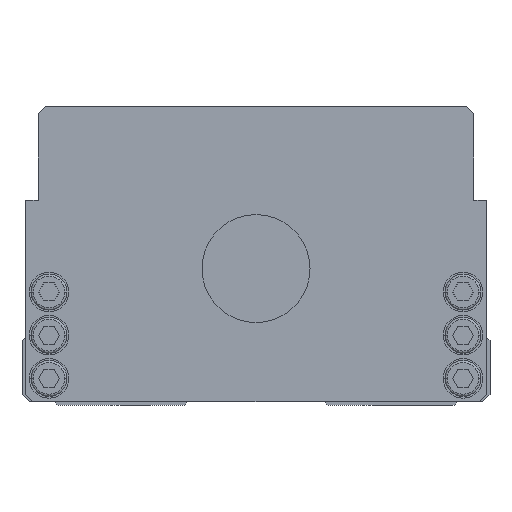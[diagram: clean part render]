
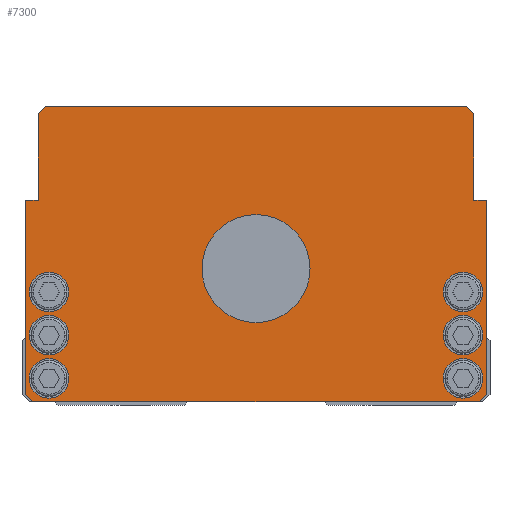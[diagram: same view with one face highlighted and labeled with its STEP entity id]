
A CAD part, front view. The second image highlights one B-rep face of the part: STEP entity #7300.
In plain terms, the highlighted planar face has unit normal (0, -1, 0).
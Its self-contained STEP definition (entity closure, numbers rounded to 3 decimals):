
#4008=VERTEX_POINT('',#11906);
#4474=EDGE_CURVE('',#4008,#11146,#12416,.T.);
#4570=EDGE_CURVE('',#6228,#5556,#12525,.T.);
#4646=EDGE_CURVE('',#6448,#6786,#12613,.T.);
#4672=EDGE_CURVE('',#10334,#8330,#12639,.T.);
#4776=VERTEX_POINT('',#12754);
#4808=VERTEX_POINT('',#12789);
#4910=VERTEX_POINT('',#12900);
#5026=VERTEX_POINT('',#13024);
#5044=EDGE_CURVE('',#5026,#4776,#13043,.T.);
#5128=EDGE_CURVE('',#11146,#4008,#13137,.T.);
#5556=VERTEX_POINT('',#13620);
#5940=EDGE_CURVE('',#6382,#4910,#14042,.T.);
#6108=EDGE_CURVE('',#10790,#8278,#14229,.T.);
#6228=VERTEX_POINT('',#14369);
#6292=EDGE_CURVE('',#5556,#6228,#14445,.T.);
#6382=VERTEX_POINT('',#14551);
#6448=VERTEX_POINT('',#14627);
#6580=EDGE_CURVE('',#9214,#9478,#14782,.T.);
#6672=EDGE_CURVE('',#8278,#7586,#14881,.T.);
#6786=VERTEX_POINT('',#15006);
#7114=EDGE_CURVE('',#7176,#10088,#15383,.T.);
#7140=EDGE_CURVE('',#7414,#10290,#15410,.T.);
#7176=VERTEX_POINT('',#15449);
#7300=ADVANCED_FACE('',(#15590,#15591,#15592,#15593,#15594,#15595,#15596,#15597),#15598,.T.);
#7330=VERTEX_POINT('',#15632);
#7414=VERTEX_POINT('',#15723);
#7506=EDGE_CURVE('',#10290,#7414,#15831,.T.);
#7586=VERTEX_POINT('',#15922);
#8042=EDGE_CURVE('',#10088,#10118,#16432,.T.);
#8084=EDGE_CURVE('',#10118,#7330,#16478,.T.);
#8278=VERTEX_POINT('',#16691);
#8330=VERTEX_POINT('',#16745);
#8588=EDGE_CURVE('',#8864,#4808,#17032,.T.);
#8794=EDGE_CURVE('',#4808,#8864,#17261,.T.);
#8864=VERTEX_POINT('',#17336);
#9214=VERTEX_POINT('',#17730);
#9420=EDGE_CURVE('',#7586,#10074,#17958,.T.);
#9478=VERTEX_POINT('',#18024);
#9752=EDGE_CURVE('',#6786,#6448,#18346,.T.);
#10074=VERTEX_POINT('',#18705);
#10088=VERTEX_POINT('',#18724);
#10118=VERTEX_POINT('',#18757);
#10290=VERTEX_POINT('',#18958);
#10314=EDGE_CURVE('',#7330,#5026,#18985,.T.);
#10334=VERTEX_POINT('',#19010);
#10370=EDGE_CURVE('',#8330,#10334,#19047,.T.);
#10764=EDGE_CURVE('',#9478,#9214,#19465,.T.);
#10790=VERTEX_POINT('',#19497);
#11146=VERTEX_POINT('',#19884);
#11314=EDGE_CURVE('',#4910,#10790,#20069,.T.);
#11480=EDGE_CURVE('',#10074,#7176,#20252,.T.);
#11724=EDGE_CURVE('',#4776,#6382,#20525,.T.);
#11906=CARTESIAN_POINT('',(63.0,0.0,19.5));
#12416=CIRCLE('',#21440,5.5);
#12525=CIRCLE('',#21587,5.5);
#12613=CIRCLE('',#21704,15.0);
#12639=CIRCLE('',#21747,5.5);
#12754=CARTESIAN_POINT('',(-60.5,0.0,81.0));
#12789=CARTESIAN_POINT('',(63.0,0.0,7.5));
#12900=CARTESIAN_POINT('',(58.5,0.0,83.0));
#13024=CARTESIAN_POINT('',(-60.5,0.0,57.0));
#13043=LINE('',#22294,#22295);
#13137=CIRCLE('',#22426,5.5);
#13620=CARTESIAN_POINT('',(63.0,0.0,31.5));
#14042=LINE('',#23676,#23677);
#14229=LINE('',#23940,#23941);
#14369=CARTESIAN_POINT('',(52.0,0.0,31.5));
#14445=CIRCLE('',#24221,5.5);
#14551=CARTESIAN_POINT('',(-58.5,0.0,83.0));
#14627=CARTESIAN_POINT('',(15.0,0.0,38.0));
#14782=CIRCLE('',#24650,5.5);
#14881=LINE('',#24820,#24821);
#15006=CARTESIAN_POINT('',(-15.0,0.0,38.0));
#15383=LINE('',#25477,#25478);
#15410=CIRCLE('',#25515,5.5);
#15449=CARTESIAN_POINT('',(62.0,0.0,1.0));
#15590=FACE_BOUND('',#25749,.T.);
#15591=FACE_BOUND('',#25750,.T.);
#15592=FACE_BOUND('',#25751,.T.);
#15593=FACE_BOUND('',#25752,.T.);
#15594=FACE_BOUND('',#25753,.T.);
#15595=FACE_BOUND('',#25754,.T.);
#15596=FACE_BOUND('',#25755,.T.);
#15597=FACE_OUTER_BOUND('',#25756,.T.);
#15598=PLANE('',#25757);
#15632=CARTESIAN_POINT('',(-64.0,0.0,57.0));
#15723=CARTESIAN_POINT('',(-63.0,0.0,31.5));
#15831=CIRCLE('',#26071,5.5);
#15922=CARTESIAN_POINT('',(64.0,0.0,57.0));
#16432=LINE('',#26890,#26891);
#16478=LINE('',#26960,#26961);
#16691=CARTESIAN_POINT('',(60.5,0.0,57.0));
#16745=CARTESIAN_POINT('',(-52.0,0.0,7.5));
#17032=CIRCLE('',#27739,5.5);
#17261=CIRCLE('',#28051,5.5);
#17336=CARTESIAN_POINT('',(52.0,0.0,7.5));
#17730=CARTESIAN_POINT('',(-63.0,0.0,19.5));
#17958=LINE('',#28975,#28976);
#18024=CARTESIAN_POINT('',(-52.0,0.0,19.5));
#18346=CIRCLE('',#29488,15.0);
#18705=CARTESIAN_POINT('',(64.0,0.0,3.0));
#18724=CARTESIAN_POINT('',(-62.0,0.0,1.0));
#18757=CARTESIAN_POINT('',(-64.0,0.0,3.0));
#18958=CARTESIAN_POINT('',(-52.0,0.0,31.5));
#18985=LINE('',#30375,#30376);
#19010=CARTESIAN_POINT('',(-63.0,0.0,7.5));
#19047=CIRCLE('',#30458,5.5);
#19465=CIRCLE('',#31053,5.5);
#19497=CARTESIAN_POINT('',(60.5,0.0,81.0));
#19884=CARTESIAN_POINT('',(52.0,0.0,19.5));
#20069=LINE('',#31881,#31882);
#20252=LINE('',#32121,#32122);
#20525=LINE('',#32509,#32510);
#21440=AXIS2_PLACEMENT_3D('',#33341,#33342,#33343);
#21587=AXIS2_PLACEMENT_3D('',#33483,#33484,#33485);
#21704=AXIS2_PLACEMENT_3D('',#33598,#33599,#33600);
#21747=AXIS2_PLACEMENT_3D('',#33614,#33615,#33616);
#22294=CARTESIAN_POINT('',(-60.5,0.0,81.0));
#22295=VECTOR('',#34002,1.0);
#22426=AXIS2_PLACEMENT_3D('',#34113,#34114,#34115);
#23676=CARTESIAN_POINT('',(58.5,0.0,83.0));
#23677=VECTOR('',#35142,1.0);
#23940=CARTESIAN_POINT('',(60.5,0.0,57.0));
#23941=VECTOR('',#35388,1.0);
#24221=AXIS2_PLACEMENT_3D('',#35742,#35743,#35744);
#24650=AXIS2_PLACEMENT_3D('',#36267,#36268,#36269);
#24820=CARTESIAN_POINT('',(64.0,0.0,57.0));
#24821=VECTOR('',#36368,1.0);
#25477=CARTESIAN_POINT('',(-62.0,0.0,1.0));
#25478=VECTOR('',#36937,1.0);
#25515=AXIS2_PLACEMENT_3D('',#36960,#36961,#36962);
#25749=EDGE_LOOP('',(#37167,#37168));
#25750=EDGE_LOOP('',(#37169,#37170));
#25751=EDGE_LOOP('',(#37171,#37172));
#25752=EDGE_LOOP('',(#37173,#37174));
#25753=EDGE_LOOP('',(#37175,#37176));
#25754=EDGE_LOOP('',(#37177,#37178));
#25755=EDGE_LOOP('',(#37179,#37180));
#25756=EDGE_LOOP('',(#37181,#37182,#37183,#37184,#37185,#37186,#37187,#37188,#37189,#37190,#37191,#37192));
#25757=AXIS2_PLACEMENT_3D('',#37193,#37194,#37195);
#26071=AXIS2_PLACEMENT_3D('',#37460,#37461,#37462);
#26890=CARTESIAN_POINT('',(-64.0,0.0,3.0));
#26891=VECTOR('',#38135,1.);
#26960=CARTESIAN_POINT('',(-64.0,0.0,57.0));
#26961=VECTOR('',#38182,1.0);
#27739=AXIS2_PLACEMENT_3D('',#38796,#38797,#38798);
#28051=AXIS2_PLACEMENT_3D('',#39038,#39039,#39040);
#28975=CARTESIAN_POINT('',(64.0,0.0,3.0));
#28976=VECTOR('',#39816,1.0);
#29488=AXIS2_PLACEMENT_3D('',#40352,#40353,#40354);
#30375=CARTESIAN_POINT('',(-60.5,0.0,57.0));
#30376=VECTOR('',#41178,1.0);
#30458=AXIS2_PLACEMENT_3D('',#41241,#41242,#41243);
#31053=AXIS2_PLACEMENT_3D('',#41593,#41594,#41595);
#31881=CARTESIAN_POINT('',(60.5,0.0,81.0));
#31882=VECTOR('',#42272,1.);
#32121=CARTESIAN_POINT('',(62.0,0.0,1.0));
#32122=VECTOR('',#42483,1.);
#32509=CARTESIAN_POINT('',(-58.5,0.0,83.0));
#32510=VECTOR('',#42797,1.);
#33341=CARTESIAN_POINT('',(57.5,0.0,19.5));
#33342=DIRECTION('',(-0.0,1.0,0.0));
#33343=DIRECTION('',(1.0,0.0,0.0));
#33483=CARTESIAN_POINT('',(57.5,0.0,31.5));
#33484=DIRECTION('',(-0.0,1.0,0.0));
#33485=DIRECTION('',(1.0,0.0,0.0));
#33598=CARTESIAN_POINT('',(0.0,0.0,38.0));
#33599=DIRECTION('',(-0.0,1.0,0.0));
#33600=DIRECTION('',(1.0,0.0,0.0));
#33614=CARTESIAN_POINT('',(-57.5,0.0,7.5));
#33615=DIRECTION('',(-0.0,1.0,0.0));
#33616=DIRECTION('',(1.0,0.0,0.0));
#34002=DIRECTION('',(0.0,0.0,1.0));
#34113=CARTESIAN_POINT('',(57.5,0.0,19.5));
#34114=DIRECTION('',(-0.0,1.0,0.0));
#34115=DIRECTION('',(1.0,0.0,0.0));
#35142=DIRECTION('',(1.0,0.0,0.0));
#35388=DIRECTION('',(-0.0,0.0,-1.0));
#35742=CARTESIAN_POINT('',(57.5,0.0,31.5));
#35743=DIRECTION('',(-0.0,1.0,0.0));
#35744=DIRECTION('',(1.0,0.0,0.0));
#36267=CARTESIAN_POINT('',(-57.5,0.0,19.5));
#36268=DIRECTION('',(-0.0,1.0,0.0));
#36269=DIRECTION('',(1.0,0.0,0.0));
#36368=DIRECTION('',(1.0,0.0,0.0));
#36937=DIRECTION('',(-1.0,0.0,-0.0));
#36960=CARTESIAN_POINT('',(-57.5,0.0,31.5));
#36961=DIRECTION('',(-0.0,1.0,0.0));
#36962=DIRECTION('',(1.0,0.0,0.0));
#37167=ORIENTED_EDGE('',*,*,#4646,.T.);
#37168=ORIENTED_EDGE('',*,*,#9752,.T.);
#37169=ORIENTED_EDGE('',*,*,#6292,.T.);
#37170=ORIENTED_EDGE('',*,*,#4570,.T.);
#37171=ORIENTED_EDGE('',*,*,#4474,.T.);
#37172=ORIENTED_EDGE('',*,*,#5128,.T.);
#37173=ORIENTED_EDGE('',*,*,#8794,.T.);
#37174=ORIENTED_EDGE('',*,*,#8588,.T.);
#37175=ORIENTED_EDGE('',*,*,#7506,.T.);
#37176=ORIENTED_EDGE('',*,*,#7140,.T.);
#37177=ORIENTED_EDGE('',*,*,#10764,.T.);
#37178=ORIENTED_EDGE('',*,*,#6580,.T.);
#37179=ORIENTED_EDGE('',*,*,#10370,.T.);
#37180=ORIENTED_EDGE('',*,*,#4672,.T.);
#37181=ORIENTED_EDGE('',*,*,#8042,.F.);
#37182=ORIENTED_EDGE('',*,*,#7114,.F.);
#37183=ORIENTED_EDGE('',*,*,#11480,.F.);
#37184=ORIENTED_EDGE('',*,*,#9420,.F.);
#37185=ORIENTED_EDGE('',*,*,#6672,.F.);
#37186=ORIENTED_EDGE('',*,*,#6108,.F.);
#37187=ORIENTED_EDGE('',*,*,#11314,.F.);
#37188=ORIENTED_EDGE('',*,*,#5940,.F.);
#37189=ORIENTED_EDGE('',*,*,#11724,.F.);
#37190=ORIENTED_EDGE('',*,*,#5044,.F.);
#37191=ORIENTED_EDGE('',*,*,#10314,.F.);
#37192=ORIENTED_EDGE('',*,*,#8084,.F.);
#37193=CARTESIAN_POINT('',(0.,0.0,41.562));
#37194=DIRECTION('',(0.0,-1.0,0.0));
#37195=DIRECTION('',(1.0,0.0,0.0));
#37460=CARTESIAN_POINT('',(-57.5,0.0,31.5));
#37461=DIRECTION('',(-0.0,1.0,0.0));
#37462=DIRECTION('',(1.0,0.0,0.0));
#38135=DIRECTION('',(-0.707,0.0,0.707));
#38182=DIRECTION('',(0.0,0.0,1.0));
#38796=CARTESIAN_POINT('',(57.5,0.0,7.5));
#38797=DIRECTION('',(-0.0,1.0,0.0));
#38798=DIRECTION('',(1.0,0.0,0.0));
#39038=CARTESIAN_POINT('',(57.5,0.0,7.5));
#39039=DIRECTION('',(-0.0,1.0,0.0));
#39040=DIRECTION('',(1.0,0.0,0.0));
#39816=DIRECTION('',(-0.0,0.0,-1.0));
#40352=CARTESIAN_POINT('',(0.0,0.0,38.0));
#40353=DIRECTION('',(-0.0,1.0,0.0));
#40354=DIRECTION('',(1.0,0.0,0.0));
#41178=DIRECTION('',(1.0,0.0,0.0));
#41241=CARTESIAN_POINT('',(-57.5,0.0,7.5));
#41242=DIRECTION('',(-0.0,1.0,0.0));
#41243=DIRECTION('',(1.0,0.0,0.0));
#41593=CARTESIAN_POINT('',(-57.5,0.0,19.5));
#41594=DIRECTION('',(-0.0,1.0,0.0));
#41595=DIRECTION('',(1.0,0.0,0.0));
#42272=DIRECTION('',(0.707,0.0,-0.707));
#42483=DIRECTION('',(-0.707,0.0,-0.707));
#42797=DIRECTION('',(0.707,0.0,0.707));
